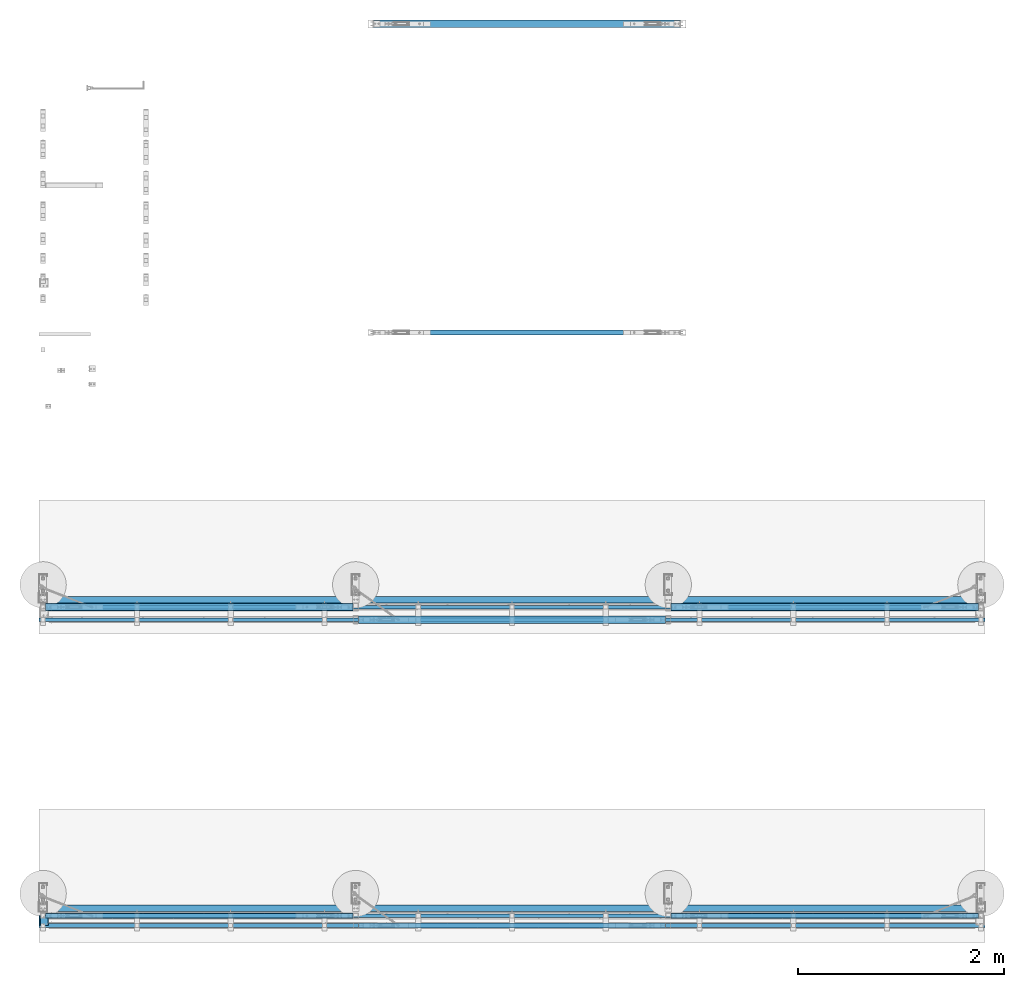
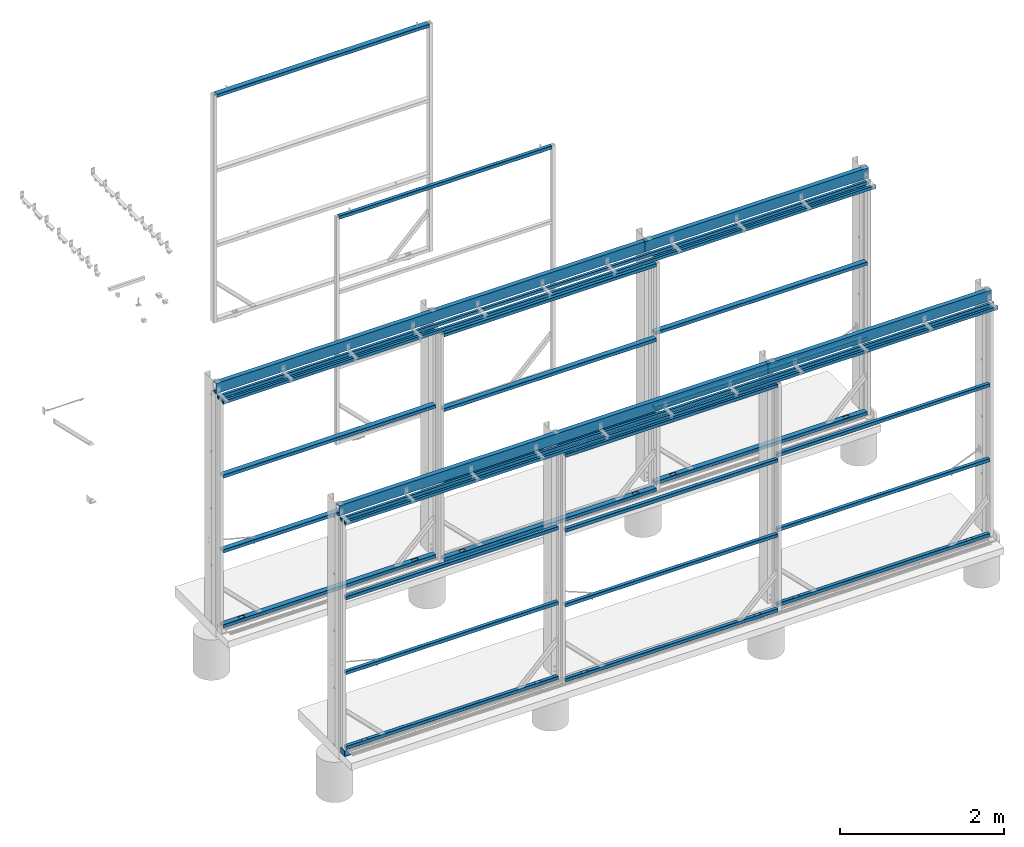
# One storey, part 7 of 91: 35 beams, 35 elements without a shape of their own.
"""IFC2X3 building model written with IfcOpenShell, lengths in millimetres."""

from ifc_helpers import new_model, si_unit, frame, origin_with_axes, origin_2d_with_axis, place, context, subcontext, project, spatial, polyline, hollow_rectangle, l_section, c_section, outline, extrude, boolean, material, type_object, element, aggregate, save


model = new_model("IFC2X3")

# Units and contexts
model_context = context("Model", 3, precision=1e-05, world=origin_with_axes())
body_context = subcontext(model_context, "Body", "Model", "MODEL_VIEW")
ifc_project = project(units=[si_unit("LENGTHUNIT", "METRE", prefix="MILLI"), si_unit("AREAUNIT", "SQUARE_METRE"), si_unit("VOLUMEUNIT", "CUBIC_METRE"), si_unit("MASSUNIT", "GRAM", prefix="KILO"), si_unit("TIMEUNIT", "SECOND"), si_unit("PLANEANGLEUNIT", "RADIAN"), si_unit("SOLIDANGLEUNIT", "STERADIAN"), si_unit("THERMODYNAMICTEMPERATUREUNIT", "DEGREE_CELSIUS"), si_unit("LUMINOUSINTENSITYUNIT", "LUMEN")], contexts=[model_context])

# Site, building, storey
site_placement = place(None, origin_with_axes())
site = spatial("IfcSite", under=ifc_project, at=site_placement, Name="Undefined", CompositionType="ELEMENT")
building_placement = place(site_placement, origin_with_axes())
building = spatial("IfcBuilding", under=site, at=building_placement, Name="Undefined", CompositionType="ELEMENT")
storey_placement = place(building_placement, origin_with_axes())
storey = spatial("IfcBuildingStorey", under=building, at=storey_placement, Name="Undefined", CompositionType="ELEMENT", Elevation=0.0)

# Assembly, beam
assembly_1_placement = place(storey_placement, origin_with_axes())
assembly_1 = element("IfcElementAssembly", 1, at=assembly_1_placement, inside=storey, Name="DOOR STOPPER", AssemblyPlace="NOTDEFINED", PredefinedType="RIGID_FRAME")
ifc_material_1 = material(Name="STEEL/300PLUS")
beam_type_1 = type_object("IfcBeamType", Name="EA90*90*8", PredefinedType="NOTDEFINED")
beam_1_placement = place(assembly_1_placement, frame((-116788.84, 84617.6509765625, -12.0), z_axis=(0.0, 0.0, 1.0), x_axis=(0.0, 1.0, 0.0)))
beam_1 = element("IfcBeam", 2, at=beam_1_placement, type_object=beam_type_1, material=ifc_material_1, Name="DOOR STOPPER", ObjectType="EA90*90*8", context=body_context, shape_type="SweptSolid", body=[
    extrude(l_section(Depth=90.0, Width=90.0, Thickness=7.800000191, FilletRadius=8.0, EdgeRadius=5.0, at=origin_2d_with_axis()), frame((95.0, 0.0, 0.0), z_axis=(-1.0, 0.0, 0.0), x_axis=(0.0, -1.0, 0.0)), (0.0, 0.0, 1.0), 95.0),
])
aggregate(assembly_1, [beam_1])

assembly_2_placement = place(storey_placement, origin_with_axes())
assembly_2 = element("IfcElementAssembly", 3, at=assembly_2_placement, inside=storey, Name="Sliding Door Beam", AssemblyPlace="NOTDEFINED", PredefinedType="RIGID_FRAME")
beam_type_2 = type_object("IfcBeamType", Name="RHS:75x50x2.0", PredefinedType="NOTDEFINED")
beam_2_placement = place(assembly_2_placement, frame((-110601.29, 93380.0, 3351.0), z_axis=(0.0, -1.0, 0.0), x_axis=(-1.0, 0.0, 0.0)))
beam_2 = element("IfcBeam", 4, at=beam_2_placement, type_object=beam_type_2, material=ifc_material_1, Name="Sliding Door Beam", ObjectType="RHS:75x50x2.0", context=body_context, shape_type="SweptSolid", body=[
    extrude(hollow_rectangle(XDim=50.0, YDim=75.0, WallThickness=2.0, InnerFilletRadius=2.0, OuterFilletRadius=4.0, at=origin_2d_with_axis()), frame((2987.5, 0.0, 0.0), z_axis=(-1.0, 0.0, 0.0), x_axis=(0.0, -1.0, 0.0)), (0.0, 0.0, 1.0), 2987.5),
])
aggregate(assembly_2, [beam_2])

assembly_3_placement = place(storey_placement, origin_with_axes())
assembly_3 = element("IfcElementAssembly", 5, at=assembly_3_placement, inside=storey, Name="SLIDING DOOR", AssemblyPlace="NOTDEFINED", PredefinedType="RIGID_FRAME")
ifc_material_2 = material(Name="STEEL/300")
beam_3_placement = place(assembly_3_placement, frame((-107708.34, 87712.15, 2236.66333333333), z_axis=(0.0, -1.0, 0.0), x_axis=(-1.0, 0.0, 0.0)))
beam_3 = element("IfcBeam", 6, at=beam_3_placement, type_object=beam_type_2, material=ifc_material_2, Name="SLIDING DOOR", ObjectType="RHS:75x50x2.0", context=body_context, shape_type="SweptSolid", body=[
    extrude(hollow_rectangle(XDim=50.0, YDim=75.0, WallThickness=2.0, InnerFilletRadius=2.0, OuterFilletRadius=4.0, at=origin_2d_with_axis()), frame((2987.5, 0.0, 0.0), z_axis=(-1.0, 0.0, 0.0), x_axis=(0.0, -1.0, 0.0)), (0.0, 0.0, 1.0), 2987.5),
])
aggregate(assembly_3, [beam_3])

assembly_4_placement = place(storey_placement, origin_with_axes())
assembly_4 = element("IfcElementAssembly", 7, at=assembly_4_placement, inside=storey, Name="SLIDING DOOR", AssemblyPlace="NOTDEFINED", PredefinedType="RIGID_FRAME")
beam_4_placement = place(assembly_4_placement, frame((-107708.34, 87712.15, 1122.33666666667), z_axis=(0.0, -1.0, 0.0), x_axis=(-1.0, 0.0, 0.0)))
beam_4 = element("IfcBeam", 8, at=beam_4_placement, type_object=beam_type_2, material=ifc_material_2, Name="SLIDING DOOR", ObjectType="RHS:75x50x2.0", context=body_context, shape_type="SweptSolid", body=[
    extrude(hollow_rectangle(XDim=50.0, YDim=75.0, WallThickness=2.0, InnerFilletRadius=2.0, OuterFilletRadius=4.0, at=origin_2d_with_axis()), frame((2987.5, 0.0, 0.0), z_axis=(-1.0, 0.0, 0.0), x_axis=(0.0, -1.0, 0.0)), (0.0, 0.0, 1.0), 2987.5),
])
aggregate(assembly_4, [beam_4])

assembly_5_placement = place(storey_placement, origin_with_axes())
assembly_5 = element("IfcElementAssembly", 9, at=assembly_5_placement, inside=storey, Name="SLIDING DOOR", AssemblyPlace="NOTDEFINED", PredefinedType="RIGID_FRAME")
beam_5_placement = place(assembly_5_placement, frame((-107708.34, 87712.15, 8.0), z_axis=(0.0, -1.0, 0.0), x_axis=(-1.0, 0.0, 0.0)))
beam_5 = element("IfcBeam", 10, at=beam_5_placement, type_object=beam_type_2, material=ifc_material_2, Name="SLIDING DOOR", ObjectType="RHS:75x50x2.0", context=body_context, shape_type="CSG", body=[
    boolean("DIFFERENCE", boolean("DIFFERENCE", boolean("DIFFERENCE", boolean("DIFFERENCE", extrude(hollow_rectangle(XDim=50.0, YDim=75.0, WallThickness=2.0, InnerFilletRadius=2.0, OuterFilletRadius=4.0, at=origin_2d_with_axis()), frame((2987.5, 0.0, 0.0), z_axis=(-1.0, 0.0, 0.0), x_axis=(0.0, -1.0, 0.0)), (0.0, 0.0, 1.0), 2987.5), extrude(outline(polyline([(0.0, 0.0), (38.0, 0.0), (38.0, 100.0), (0.0, 100.0), (0.0, 0.0)])), frame((224.99875659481, 35.5, 19.0), z_axis=(0.0, -1.0, 0.0), x_axis=(0.0, 0.0, -1.0)), (0.0, 0.0, 1.0), 25.0)), extrude(outline(polyline([(0.0, 0.0), (38.0, 0.0), (38.0, 80.0), (0.0, 80.0), (0.0, 0.0)])), frame((234.99875659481, -12.5, 19.0), z_axis=(0.0, -1.0, 0.0), x_axis=(0.0, 0.0, -1.0)), (0.0, 0.0, 1.0), 25.0)), extrude(outline(polyline([(0.0, 0.0), (38.0, 0.0), (38.0, 100.0), (0.0, 100.0), (0.0, 0.0)])), frame((2662.49875659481, 35.5, 19.0), z_axis=(0.0, -1.0, 0.0), x_axis=(0.0, 0.0, -1.0)), (0.0, 0.0, 1.0), 25.0)), extrude(outline(polyline([(0.0, 0.0), (38.0, 0.0), (38.0, 80.0), (0.0, 80.0), (0.0, 0.0)])), frame((2672.49875659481, -12.5, 19.0), z_axis=(0.0, -1.0, 0.0), x_axis=(0.0, 0.0, -1.0)), (0.0, 0.0, 1.0), 25.0)),
])
aggregate(assembly_5, [beam_5])

assembly_6_placement = place(storey_placement, origin_with_axes())
assembly_6 = element("IfcElementAssembly", 11, at=assembly_6_placement, inside=storey, Name="SLIDING DOOR", AssemblyPlace="NOTDEFINED", PredefinedType="RIGID_FRAME")
beam_6_placement = place(assembly_6_placement, frame((-107708.34, 87712.15, 3351.0), z_axis=(0.0, -1.0, 0.0), x_axis=(-1.0, 0.0, 0.0)))
beam_6 = element("IfcBeam", 12, at=beam_6_placement, type_object=beam_type_2, material=ifc_material_2, Name="SLIDING DOOR", ObjectType="RHS:75x50x2.0", context=body_context, shape_type="SweptSolid", body=[
    extrude(hollow_rectangle(XDim=50.0, YDim=75.0, WallThickness=2.0, InnerFilletRadius=2.0, OuterFilletRadius=4.0, at=origin_2d_with_axis()), frame((2987.5, 0.0, 0.0), z_axis=(-1.0, 0.0, 0.0), x_axis=(0.0, -1.0, 0.0)), (0.0, 0.0, 1.0), 2987.5),
])
aggregate(assembly_6, [beam_6])

assembly_7_placement = place(storey_placement, origin_with_axes())
assembly_7 = element("IfcElementAssembly", 13, at=assembly_7_placement, inside=storey, Name="SLIDING DOOR", AssemblyPlace="NOTDEFINED", PredefinedType="RIGID_FRAME")
beam_7_placement = place(assembly_7_placement, frame((-110745.84, 87590.15, 2236.66333333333), z_axis=(0.0, -1.0, 0.0), x_axis=(-1.0, 0.0, 0.0)))
beam_7 = element("IfcBeam", 14, at=beam_7_placement, type_object=beam_type_2, material=ifc_material_2, Name="SLIDING DOOR", ObjectType="RHS:75x50x2.0", context=body_context, shape_type="SweptSolid", body=[
    extrude(hollow_rectangle(XDim=50.0, YDim=75.0, WallThickness=2.0, InnerFilletRadius=2.0, OuterFilletRadius=4.0, at=origin_2d_with_axis()), frame((2987.5, 0.0, 0.0), z_axis=(-1.0, 0.0, 0.0), x_axis=(0.0, -1.0, 0.0)), (0.0, 0.0, 1.0), 2987.5),
])
aggregate(assembly_7, [beam_7])

assembly_8_placement = place(storey_placement, origin_with_axes())
assembly_8 = element("IfcElementAssembly", 15, at=assembly_8_placement, inside=storey, Name="SLIDING DOOR", AssemblyPlace="NOTDEFINED", PredefinedType="RIGID_FRAME")
beam_8_placement = place(assembly_8_placement, frame((-110745.84, 87590.15, 1122.33666666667), z_axis=(0.0, -1.0, 0.0), x_axis=(-1.0, 0.0, 0.0)))
beam_8 = element("IfcBeam", 16, at=beam_8_placement, type_object=beam_type_2, material=ifc_material_2, Name="SLIDING DOOR", ObjectType="RHS:75x50x2.0", context=body_context, shape_type="SweptSolid", body=[
    extrude(hollow_rectangle(XDim=50.0, YDim=75.0, WallThickness=2.0, InnerFilletRadius=2.0, OuterFilletRadius=4.0, at=origin_2d_with_axis()), frame((2987.5, 0.0, 0.0), z_axis=(-1.0, 0.0, 0.0), x_axis=(0.0, -1.0, 0.0)), (0.0, 0.0, 1.0), 2987.5),
])
aggregate(assembly_8, [beam_8])

assembly_9_placement = place(storey_placement, origin_with_axes())
assembly_9 = element("IfcElementAssembly", 17, at=assembly_9_placement, inside=storey, Name="SLIDING DOOR", AssemblyPlace="NOTDEFINED", PredefinedType="RIGID_FRAME")
beam_9_placement = place(assembly_9_placement, frame((-110745.84, 87590.15, 8.0), z_axis=(0.0, -1.0, 0.0), x_axis=(-1.0, 0.0, 0.0)))
beam_9 = element("IfcBeam", 18, at=beam_9_placement, type_object=beam_type_2, material=ifc_material_2, Name="SLIDING DOOR", ObjectType="RHS:75x50x2.0", context=body_context, shape_type="CSG", body=[
    boolean("DIFFERENCE", boolean("DIFFERENCE", boolean("DIFFERENCE", boolean("DIFFERENCE", extrude(hollow_rectangle(XDim=50.0, YDim=75.0, WallThickness=2.0, InnerFilletRadius=2.0, OuterFilletRadius=4.0, at=origin_2d_with_axis()), frame((2987.5, 0.0, 0.0), z_axis=(-1.0, 0.0, 0.0), x_axis=(0.0, -1.0, 0.0)), (0.0, 0.0, 1.0), 2987.5), extrude(outline(polyline([(0.0, 0.0), (38.0, 0.0), (38.0, 100.0), (0.0, 100.0), (0.0, 0.0)])), frame((224.99875659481, 35.5, 19.0), z_axis=(0.0, -1.0, 0.0), x_axis=(0.0, 0.0, -1.0)), (0.0, 0.0, 1.0), 25.0)), extrude(outline(polyline([(0.0, 0.0), (38.0, 0.0), (38.0, 80.0), (0.0, 80.0), (0.0, 0.0)])), frame((234.99875659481, -12.5, 19.0), z_axis=(0.0, -1.0, 0.0), x_axis=(0.0, 0.0, -1.0)), (0.0, 0.0, 1.0), 25.0)), extrude(outline(polyline([(0.0, 0.0), (38.0, 0.0), (38.0, 100.0), (0.0, 100.0), (0.0, 0.0)])), frame((2662.49875659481, 35.5, 19.0), z_axis=(0.0, -1.0, 0.0), x_axis=(0.0, 0.0, -1.0)), (0.0, 0.0, 1.0), 25.0)), extrude(outline(polyline([(0.0, 0.0), (38.0, 0.0), (38.0, 80.0), (0.0, 80.0), (0.0, 0.0)])), frame((2672.49875659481, -12.5, 19.0), z_axis=(0.0, -1.0, 0.0), x_axis=(0.0, 0.0, -1.0)), (0.0, 0.0, 1.0), 25.0)),
])
aggregate(assembly_9, [beam_9])

assembly_10_placement = place(storey_placement, origin_with_axes())
assembly_10 = element("IfcElementAssembly", 19, at=assembly_10_placement, inside=storey, Name="SLIDING DOOR", AssemblyPlace="NOTDEFINED", PredefinedType="RIGID_FRAME")
beam_10_placement = place(assembly_10_placement, frame((-110745.84, 87590.15, 3351.0), z_axis=(0.0, -1.0, 0.0), x_axis=(-1.0, 0.0, 0.0)))
beam_10 = element("IfcBeam", 20, at=beam_10_placement, type_object=beam_type_2, material=ifc_material_2, Name="SLIDING DOOR", ObjectType="RHS:75x50x2.0", context=body_context, shape_type="SweptSolid", body=[
    extrude(hollow_rectangle(XDim=50.0, YDim=75.0, WallThickness=2.0, InnerFilletRadius=2.0, OuterFilletRadius=4.0, at=origin_2d_with_axis()), frame((2987.5, 0.0, 0.0), z_axis=(-1.0, 0.0, 0.0), x_axis=(0.0, -1.0, 0.0)), (0.0, 0.0, 1.0), 2987.5),
])
aggregate(assembly_10, [beam_10])

assembly_11_placement = place(storey_placement, origin_with_axes())
assembly_11 = element("IfcElementAssembly", 21, at=assembly_11_placement, inside=storey, Name="SLIDING DOOR", AssemblyPlace="NOTDEFINED", PredefinedType="RIGID_FRAME")
beam_11_placement = place(assembly_11_placement, frame((-113783.34, 87712.15, 2236.66333333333), z_axis=(0.0, -1.0, 0.0), x_axis=(-1.0, 0.0, 0.0)))
beam_11 = element("IfcBeam", 22, at=beam_11_placement, type_object=beam_type_2, material=ifc_material_2, Name="SLIDING DOOR", ObjectType="RHS:75x50x2.0", context=body_context, shape_type="SweptSolid", body=[
    extrude(hollow_rectangle(XDim=50.0, YDim=75.0, WallThickness=2.0, InnerFilletRadius=2.0, OuterFilletRadius=4.0, at=origin_2d_with_axis()), frame((2987.5, 0.0, 0.0), z_axis=(-1.0, 0.0, 0.0), x_axis=(0.0, -1.0, 0.0)), (0.0, 0.0, 1.0), 2987.5),
])
aggregate(assembly_11, [beam_11])

assembly_12_placement = place(storey_placement, origin_with_axes())
assembly_12 = element("IfcElementAssembly", 23, at=assembly_12_placement, inside=storey, Name="SLIDING DOOR", AssemblyPlace="NOTDEFINED", PredefinedType="RIGID_FRAME")
beam_12_placement = place(assembly_12_placement, frame((-113783.34, 87712.15, 1122.33666666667), z_axis=(0.0, -1.0, 0.0), x_axis=(-1.0, 0.0, 0.0)))
beam_12 = element("IfcBeam", 24, at=beam_12_placement, type_object=beam_type_2, material=ifc_material_2, Name="SLIDING DOOR", ObjectType="RHS:75x50x2.0", context=body_context, shape_type="SweptSolid", body=[
    extrude(hollow_rectangle(XDim=50.0, YDim=75.0, WallThickness=2.0, InnerFilletRadius=2.0, OuterFilletRadius=4.0, at=origin_2d_with_axis()), frame((2987.5, 0.0, 0.0), z_axis=(-1.0, 0.0, 0.0), x_axis=(0.0, -1.0, 0.0)), (0.0, 0.0, 1.0), 2987.5),
])
aggregate(assembly_12, [beam_12])

assembly_13_placement = place(storey_placement, origin_with_axes())
assembly_13 = element("IfcElementAssembly", 25, at=assembly_13_placement, inside=storey, Name="SLIDING DOOR", AssemblyPlace="NOTDEFINED", PredefinedType="RIGID_FRAME")
beam_13_placement = place(assembly_13_placement, frame((-113783.34, 87712.15, 8.0), z_axis=(0.0, -1.0, 0.0), x_axis=(-1.0, 0.0, 0.0)))
beam_13 = element("IfcBeam", 26, at=beam_13_placement, type_object=beam_type_2, material=ifc_material_2, Name="SLIDING DOOR", ObjectType="RHS:75x50x2.0", context=body_context, shape_type="CSG", body=[
    boolean("DIFFERENCE", boolean("DIFFERENCE", boolean("DIFFERENCE", boolean("DIFFERENCE", extrude(hollow_rectangle(XDim=50.0, YDim=75.0, WallThickness=2.0, InnerFilletRadius=2.0, OuterFilletRadius=4.0, at=origin_2d_with_axis()), frame((2987.5, 0.0, 0.0), z_axis=(-1.0, 0.0, 0.0), x_axis=(0.0, -1.0, 0.0)), (0.0, 0.0, 1.0), 2987.5), extrude(outline(polyline([(0.0, 0.0), (38.0, 0.0), (38.0, 100.0), (0.0, 100.0), (0.0, 0.0)])), frame((224.99875659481, 35.5, 19.0), z_axis=(0.0, -1.0, 0.0), x_axis=(0.0, 0.0, -1.0)), (0.0, 0.0, 1.0), 25.0)), extrude(outline(polyline([(0.0, 0.0), (38.0, 0.0), (38.0, 80.0), (0.0, 80.0), (0.0, 0.0)])), frame((234.99875659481, -12.5, 19.0), z_axis=(0.0, -1.0, 0.0), x_axis=(0.0, 0.0, -1.0)), (0.0, 0.0, 1.0), 25.0)), extrude(outline(polyline([(0.0, 0.0), (38.0, 0.0), (38.0, 100.0), (0.0, 100.0), (0.0, 0.0)])), frame((2662.49875659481, 35.5, 19.0), z_axis=(0.0, -1.0, 0.0), x_axis=(0.0, 0.0, -1.0)), (0.0, 0.0, 1.0), 25.0)), extrude(outline(polyline([(0.0, 0.0), (38.0, 0.0), (38.0, 80.0), (0.0, 80.0), (0.0, 0.0)])), frame((2672.49875659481, -12.5, 19.0), z_axis=(0.0, -1.0, 0.0), x_axis=(0.0, 0.0, -1.0)), (0.0, 0.0, 1.0), 25.0)),
])
aggregate(assembly_13, [beam_13])

assembly_14_placement = place(storey_placement, origin_with_axes())
assembly_14 = element("IfcElementAssembly", 27, at=assembly_14_placement, inside=storey, Name="SLIDING DOOR", AssemblyPlace="NOTDEFINED", PredefinedType="RIGID_FRAME")
beam_14_placement = place(assembly_14_placement, frame((-113783.34, 87712.15, 3351.0), z_axis=(0.0, -1.0, 0.0), x_axis=(-1.0, 0.0, 0.0)))
beam_14 = element("IfcBeam", 28, at=beam_14_placement, type_object=beam_type_2, material=ifc_material_2, Name="SLIDING DOOR", ObjectType="RHS:75x50x2.0", context=body_context, shape_type="SweptSolid", body=[
    extrude(hollow_rectangle(XDim=50.0, YDim=75.0, WallThickness=2.0, InnerFilletRadius=2.0, OuterFilletRadius=4.0, at=origin_2d_with_axis()), frame((2987.5, 0.0, 0.0), z_axis=(-1.0, 0.0, 0.0), x_axis=(0.0, -1.0, 0.0)), (0.0, 0.0, 1.0), 2987.5),
])
aggregate(assembly_14, [beam_14])

assembly_15_placement = place(storey_placement, origin_with_axes())
assembly_15 = element("IfcElementAssembly", 29, at=assembly_15_placement, inside=storey, Name="Sliding Door Beam", AssemblyPlace="NOTDEFINED", PredefinedType="RIGID_FRAME")
beam_type_3 = type_object("IfcBeamType", Name="SHS:50x50x2.0", PredefinedType="NOTDEFINED")
beam_15_placement = place(assembly_15_placement, frame((-110601.29, 90380.0, 3351.0), z_axis=(0.0, -1.0, 0.0), x_axis=(-1.0, 0.0, 0.0)))
beam_15 = element("IfcBeam", 30, at=beam_15_placement, type_object=beam_type_3, material=ifc_material_1, Name="Sliding Door Beam", ObjectType="SHS:50x50x2.0", context=body_context, shape_type="SweptSolid", body=[
    extrude(hollow_rectangle(XDim=50.0, YDim=50.0, WallThickness=2.0, InnerFilletRadius=2.0, OuterFilletRadius=4.0, at=origin_2d_with_axis()), frame((2987.5, 0.0, 0.0), z_axis=(-1.0, 0.0, 0.0), x_axis=(0.0, -1.0, 0.0)), (0.0, 0.0, 1.0), 2987.5),
])
aggregate(assembly_15, [beam_15])

assembly_16_placement = place(storey_placement, origin_with_axes())
assembly_16 = element("IfcElementAssembly", 31, at=assembly_16_placement, inside=storey, Name="SLIDING DOOR", AssemblyPlace="NOTDEFINED", PredefinedType="RIGID_FRAME")
beam_16_placement = place(assembly_16_placement, frame((-107708.34, 84712.15, 2236.66333333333), z_axis=(0.0, -1.0, 0.0), x_axis=(-1.0, 0.0, 0.0)))
beam_16 = element("IfcBeam", 32, at=beam_16_placement, type_object=beam_type_3, material=ifc_material_2, Name="SLIDING DOOR", ObjectType="SHS:50x50x2.0", context=body_context, shape_type="SweptSolid", body=[
    extrude(hollow_rectangle(XDim=50.0, YDim=50.0, WallThickness=2.0, InnerFilletRadius=2.0, OuterFilletRadius=4.0, at=origin_2d_with_axis()), frame((2987.5, 0.0, 0.0), z_axis=(-1.0, 0.0, 0.0), x_axis=(0.0, -1.0, 0.0)), (0.0, 0.0, 1.0), 2987.5),
])
aggregate(assembly_16, [beam_16])

assembly_17_placement = place(storey_placement, origin_with_axes())
assembly_17 = element("IfcElementAssembly", 33, at=assembly_17_placement, inside=storey, Name="SLIDING DOOR", AssemblyPlace="NOTDEFINED", PredefinedType="RIGID_FRAME")
beam_17_placement = place(assembly_17_placement, frame((-107708.34, 84712.15, 1122.33666666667), z_axis=(0.0, -1.0, 0.0), x_axis=(-1.0, 0.0, 0.0)))
beam_17 = element("IfcBeam", 34, at=beam_17_placement, type_object=beam_type_3, material=ifc_material_2, Name="SLIDING DOOR", ObjectType="SHS:50x50x2.0", context=body_context, shape_type="SweptSolid", body=[
    extrude(hollow_rectangle(XDim=50.0, YDim=50.0, WallThickness=2.0, InnerFilletRadius=2.0, OuterFilletRadius=4.0, at=origin_2d_with_axis()), frame((2987.5, 0.0, 0.0), z_axis=(-1.0, 0.0, 0.0), x_axis=(0.0, -1.0, 0.0)), (0.0, 0.0, 1.0), 2987.5),
])
aggregate(assembly_17, [beam_17])

assembly_18_placement = place(storey_placement, origin_with_axes())
assembly_18 = element("IfcElementAssembly", 35, at=assembly_18_placement, inside=storey, Name="SLIDING DOOR", AssemblyPlace="NOTDEFINED", PredefinedType="RIGID_FRAME")
beam_18_placement = place(assembly_18_placement, frame((-107708.34, 84712.15, 8.0), z_axis=(0.0, -1.0, 0.0), x_axis=(-1.0, 0.0, 0.0)))
beam_18 = element("IfcBeam", 36, at=beam_18_placement, type_object=beam_type_3, material=ifc_material_2, Name="SLIDING DOOR", ObjectType="SHS:50x50x2.0", context=body_context, shape_type="CSG", body=[
    boolean("DIFFERENCE", boolean("DIFFERENCE", boolean("DIFFERENCE", boolean("DIFFERENCE", extrude(hollow_rectangle(XDim=50.0, YDim=50.0, WallThickness=2.0, InnerFilletRadius=2.0, OuterFilletRadius=4.0, at=origin_2d_with_axis()), frame((2987.5, 0.0, 0.0), z_axis=(-1.0, 0.0, 0.0), x_axis=(0.0, -1.0, 0.0)), (0.0, 0.0, 1.0), 2987.5), extrude(outline(polyline([(0.0, 0.0), (38.0, 0.0), (38.0, 100.0), (0.0, 100.0), (0.0, 0.0)])), frame((224.99875659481, 35.5, 19.0), z_axis=(0.0, -1.0, 0.0), x_axis=(0.0, 0.0, -1.0)), (0.0, 0.0, 1.0), 25.0)), extrude(outline(polyline([(0.0, 0.0), (38.0, 0.0), (38.0, 80.0), (0.0, 80.0), (0.0, 0.0)])), frame((234.99875659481, -12.5, 19.0), z_axis=(0.0, -1.0, 0.0), x_axis=(0.0, 0.0, -1.0)), (0.0, 0.0, 1.0), 25.0)), extrude(outline(polyline([(0.0, 0.0), (38.0, 0.0), (38.0, 100.0), (0.0, 100.0), (0.0, 0.0)])), frame((2662.49875659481, 35.5, 19.0), z_axis=(0.0, -1.0, 0.0), x_axis=(0.0, 0.0, -1.0)), (0.0, 0.0, 1.0), 25.0)), extrude(outline(polyline([(0.0, 0.0), (38.0, 0.0), (38.0, 80.0), (0.0, 80.0), (0.0, 0.0)])), frame((2672.49875659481, -12.5, 19.0), z_axis=(0.0, -1.0, 0.0), x_axis=(0.0, 0.0, -1.0)), (0.0, 0.0, 1.0), 25.0)),
])
aggregate(assembly_18, [beam_18])

assembly_19_placement = place(storey_placement, origin_with_axes())
assembly_19 = element("IfcElementAssembly", 37, at=assembly_19_placement, inside=storey, Name="SLIDING DOOR", AssemblyPlace="NOTDEFINED", PredefinedType="RIGID_FRAME")
beam_19_placement = place(assembly_19_placement, frame((-107708.34, 84712.15, 3351.0), z_axis=(0.0, -1.0, 0.0), x_axis=(-1.0, 0.0, 0.0)))
beam_19 = element("IfcBeam", 38, at=beam_19_placement, type_object=beam_type_3, material=ifc_material_2, Name="SLIDING DOOR", ObjectType="SHS:50x50x2.0", context=body_context, shape_type="SweptSolid", body=[
    extrude(hollow_rectangle(XDim=50.0, YDim=50.0, WallThickness=2.0, InnerFilletRadius=2.0, OuterFilletRadius=4.0, at=origin_2d_with_axis()), frame((2987.5, 0.0, 0.0), z_axis=(-1.0, 0.0, 0.0), x_axis=(0.0, -1.0, 0.0)), (0.0, 0.0, 1.0), 2987.5),
])
aggregate(assembly_19, [beam_19])

assembly_20_placement = place(storey_placement, origin_with_axes())
assembly_20 = element("IfcElementAssembly", 39, at=assembly_20_placement, inside=storey, Name="SLIDING DOOR", AssemblyPlace="NOTDEFINED", PredefinedType="RIGID_FRAME")
beam_20_placement = place(assembly_20_placement, frame((-110745.84, 84618.15, 2236.66333333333), z_axis=(0.0, -1.0, 0.0), x_axis=(-1.0, 0.0, 0.0)))
beam_20 = element("IfcBeam", 40, at=beam_20_placement, type_object=beam_type_3, material=ifc_material_2, Name="SLIDING DOOR", ObjectType="SHS:50x50x2.0", context=body_context, shape_type="SweptSolid", body=[
    extrude(hollow_rectangle(XDim=50.0, YDim=50.0, WallThickness=2.0, InnerFilletRadius=2.0, OuterFilletRadius=4.0, at=origin_2d_with_axis()), frame((2987.5, 0.0, 0.0), z_axis=(-1.0, 0.0, 0.0), x_axis=(0.0, -1.0, 0.0)), (0.0, 0.0, 1.0), 2987.5),
])
aggregate(assembly_20, [beam_20])

assembly_21_placement = place(storey_placement, origin_with_axes())
assembly_21 = element("IfcElementAssembly", 41, at=assembly_21_placement, inside=storey, Name="SLIDING DOOR", AssemblyPlace="NOTDEFINED", PredefinedType="RIGID_FRAME")
beam_21_placement = place(assembly_21_placement, frame((-110745.84, 84618.15, 1122.33666666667), z_axis=(0.0, -1.0, 0.0), x_axis=(-1.0, 0.0, 0.0)))
beam_21 = element("IfcBeam", 42, at=beam_21_placement, type_object=beam_type_3, material=ifc_material_2, Name="SLIDING DOOR", ObjectType="SHS:50x50x2.0", context=body_context, shape_type="SweptSolid", body=[
    extrude(hollow_rectangle(XDim=50.0, YDim=50.0, WallThickness=2.0, InnerFilletRadius=2.0, OuterFilletRadius=4.0, at=origin_2d_with_axis()), frame((2987.5, 0.0, 0.0), z_axis=(-1.0, 0.0, 0.0), x_axis=(0.0, -1.0, 0.0)), (0.0, 0.0, 1.0), 2987.5),
])
aggregate(assembly_21, [beam_21])

assembly_22_placement = place(storey_placement, origin_with_axes())
assembly_22 = element("IfcElementAssembly", 43, at=assembly_22_placement, inside=storey, Name="SLIDING DOOR", AssemblyPlace="NOTDEFINED", PredefinedType="RIGID_FRAME")
beam_22_placement = place(assembly_22_placement, frame((-110745.84, 84618.15, 8.0), z_axis=(0.0, -1.0, 0.0), x_axis=(-1.0, 0.0, 0.0)))
beam_22 = element("IfcBeam", 44, at=beam_22_placement, type_object=beam_type_3, material=ifc_material_2, Name="SLIDING DOOR", ObjectType="SHS:50x50x2.0", context=body_context, shape_type="CSG", body=[
    boolean("DIFFERENCE", boolean("DIFFERENCE", boolean("DIFFERENCE", boolean("DIFFERENCE", extrude(hollow_rectangle(XDim=50.0, YDim=50.0, WallThickness=2.0, InnerFilletRadius=2.0, OuterFilletRadius=4.0, at=origin_2d_with_axis()), frame((2987.5, 0.0, 0.0), z_axis=(-1.0, 0.0, 0.0), x_axis=(0.0, -1.0, 0.0)), (0.0, 0.0, 1.0), 2987.5), extrude(outline(polyline([(0.0, 0.0), (38.0, 0.0), (38.0, 100.0), (0.0, 100.0), (0.0, 0.0)])), frame((224.99875659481, 35.5, 19.0), z_axis=(0.0, -1.0, 0.0), x_axis=(0.0, 0.0, -1.0)), (0.0, 0.0, 1.0), 25.0)), extrude(outline(polyline([(0.0, 0.0), (38.0, 0.0), (38.0, 80.0), (0.0, 80.0), (0.0, 0.0)])), frame((234.99875659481, -12.5, 19.0), z_axis=(0.0, -1.0, 0.0), x_axis=(0.0, 0.0, -1.0)), (0.0, 0.0, 1.0), 25.0)), extrude(outline(polyline([(0.0, 0.0), (38.0, 0.0), (38.0, 100.0), (0.0, 100.0), (0.0, 0.0)])), frame((2662.49875659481, 35.5, 19.0), z_axis=(0.0, -1.0, 0.0), x_axis=(0.0, 0.0, -1.0)), (0.0, 0.0, 1.0), 25.0)), extrude(outline(polyline([(0.0, 0.0), (38.0, 0.0), (38.0, 80.0), (0.0, 80.0), (0.0, 0.0)])), frame((2672.49875659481, -12.5, 19.0), z_axis=(0.0, -1.0, 0.0), x_axis=(0.0, 0.0, -1.0)), (0.0, 0.0, 1.0), 25.0)),
])
aggregate(assembly_22, [beam_22])

assembly_23_placement = place(storey_placement, origin_with_axes())
assembly_23 = element("IfcElementAssembly", 45, at=assembly_23_placement, inside=storey, Name="SLIDING DOOR", AssemblyPlace="NOTDEFINED", PredefinedType="RIGID_FRAME")
beam_23_placement = place(assembly_23_placement, frame((-110745.84, 84618.15, 3351.0), z_axis=(0.0, -1.0, 0.0), x_axis=(-1.0, 0.0, 0.0)))
beam_23 = element("IfcBeam", 46, at=beam_23_placement, type_object=beam_type_3, material=ifc_material_2, Name="SLIDING DOOR", ObjectType="SHS:50x50x2.0", context=body_context, shape_type="SweptSolid", body=[
    extrude(hollow_rectangle(XDim=50.0, YDim=50.0, WallThickness=2.0, InnerFilletRadius=2.0, OuterFilletRadius=4.0, at=origin_2d_with_axis()), frame((2987.5, 0.0, 0.0), z_axis=(-1.0, 0.0, 0.0), x_axis=(0.0, -1.0, 0.0)), (0.0, 0.0, 1.0), 2987.5),
])
aggregate(assembly_23, [beam_23])

assembly_24_placement = place(storey_placement, origin_with_axes())
assembly_24 = element("IfcElementAssembly", 47, at=assembly_24_placement, inside=storey, Name="SLIDING DOOR", AssemblyPlace="NOTDEFINED", PredefinedType="RIGID_FRAME")
beam_24_placement = place(assembly_24_placement, frame((-113783.34, 84712.15, 2236.66333333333), z_axis=(0.0, -1.0, 0.0), x_axis=(-1.0, 0.0, 0.0)))
beam_24 = element("IfcBeam", 48, at=beam_24_placement, type_object=beam_type_3, material=ifc_material_2, Name="SLIDING DOOR", ObjectType="SHS:50x50x2.0", context=body_context, shape_type="SweptSolid", body=[
    extrude(hollow_rectangle(XDim=50.0, YDim=50.0, WallThickness=2.0, InnerFilletRadius=2.0, OuterFilletRadius=4.0, at=origin_2d_with_axis()), frame((2987.5, 0.0, 0.0), z_axis=(-1.0, 0.0, 0.0), x_axis=(0.0, -1.0, 0.0)), (0.0, 0.0, 1.0), 2987.5),
])
aggregate(assembly_24, [beam_24])

assembly_25_placement = place(storey_placement, origin_with_axes())
assembly_25 = element("IfcElementAssembly", 49, at=assembly_25_placement, inside=storey, Name="SLIDING DOOR", AssemblyPlace="NOTDEFINED", PredefinedType="RIGID_FRAME")
beam_25_placement = place(assembly_25_placement, frame((-113783.34, 84712.15, 1122.33666666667), z_axis=(0.0, -1.0, 0.0), x_axis=(-1.0, 0.0, 0.0)))
beam_25 = element("IfcBeam", 50, at=beam_25_placement, type_object=beam_type_3, material=ifc_material_2, Name="SLIDING DOOR", ObjectType="SHS:50x50x2.0", context=body_context, shape_type="SweptSolid", body=[
    extrude(hollow_rectangle(XDim=50.0, YDim=50.0, WallThickness=2.0, InnerFilletRadius=2.0, OuterFilletRadius=4.0, at=origin_2d_with_axis()), frame((2987.5, 0.0, 0.0), z_axis=(-1.0, 0.0, 0.0), x_axis=(0.0, -1.0, 0.0)), (0.0, 0.0, 1.0), 2987.5),
])
aggregate(assembly_25, [beam_25])

assembly_26_placement = place(storey_placement, origin_with_axes())
assembly_26 = element("IfcElementAssembly", 51, at=assembly_26_placement, inside=storey, Name="SLIDING DOOR", AssemblyPlace="NOTDEFINED", PredefinedType="RIGID_FRAME")
beam_26_placement = place(assembly_26_placement, frame((-113783.34, 84712.15, 8.0), z_axis=(0.0, -1.0, 0.0), x_axis=(-1.0, 0.0, 0.0)))
beam_26 = element("IfcBeam", 52, at=beam_26_placement, type_object=beam_type_3, material=ifc_material_2, Name="SLIDING DOOR", ObjectType="SHS:50x50x2.0", context=body_context, shape_type="CSG", body=[
    boolean("DIFFERENCE", boolean("DIFFERENCE", boolean("DIFFERENCE", boolean("DIFFERENCE", extrude(hollow_rectangle(XDim=50.0, YDim=50.0, WallThickness=2.0, InnerFilletRadius=2.0, OuterFilletRadius=4.0, at=origin_2d_with_axis()), frame((2987.5, 0.0, 0.0), z_axis=(-1.0, 0.0, 0.0), x_axis=(0.0, -1.0, 0.0)), (0.0, 0.0, 1.0), 2987.5), extrude(outline(polyline([(0.0, 0.0), (38.0, 0.0), (38.0, 100.0), (0.0, 100.0), (0.0, 0.0)])), frame((224.99875659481, 35.5, 19.0), z_axis=(0.0, -1.0, 0.0), x_axis=(0.0, 0.0, -1.0)), (0.0, 0.0, 1.0), 25.0)), extrude(outline(polyline([(0.0, 0.0), (38.0, 0.0), (38.0, 80.0), (0.0, 80.0), (0.0, 0.0)])), frame((234.99875659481, -12.5, 19.0), z_axis=(0.0, -1.0, 0.0), x_axis=(0.0, 0.0, -1.0)), (0.0, 0.0, 1.0), 25.0)), extrude(outline(polyline([(0.0, 0.0), (38.0, 0.0), (38.0, 100.0), (0.0, 100.0), (0.0, 0.0)])), frame((2662.49875659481, 35.5, 19.0), z_axis=(0.0, -1.0, 0.0), x_axis=(0.0, 0.0, -1.0)), (0.0, 0.0, 1.0), 25.0)), extrude(outline(polyline([(0.0, 0.0), (38.0, 0.0), (38.0, 80.0), (0.0, 80.0), (0.0, 0.0)])), frame((2672.49875659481, -12.5, 19.0), z_axis=(0.0, -1.0, 0.0), x_axis=(0.0, 0.0, -1.0)), (0.0, 0.0, 1.0), 25.0)),
])
aggregate(assembly_26, [beam_26])

assembly_27_placement = place(storey_placement, origin_with_axes())
assembly_27 = element("IfcElementAssembly", 53, at=assembly_27_placement, inside=storey, Name="SLIDING DOOR", AssemblyPlace="NOTDEFINED", PredefinedType="RIGID_FRAME")
beam_27_placement = place(assembly_27_placement, frame((-113783.34, 84712.15, 3351.0), z_axis=(0.0, -1.0, 0.0), x_axis=(-1.0, 0.0, 0.0)))
beam_27 = element("IfcBeam", 54, at=beam_27_placement, type_object=beam_type_3, material=ifc_material_2, Name="SLIDING DOOR", ObjectType="SHS:50x50x2.0", context=body_context, shape_type="SweptSolid", body=[
    extrude(hollow_rectangle(XDim=50.0, YDim=50.0, WallThickness=2.0, InnerFilletRadius=2.0, OuterFilletRadius=4.0, at=origin_2d_with_axis()), frame((2987.5, 0.0, 0.0), z_axis=(-1.0, 0.0, 0.0), x_axis=(0.0, -1.0, 0.0)), (0.0, 0.0, 1.0), 2987.5),
])
aggregate(assembly_27, [beam_27])

assembly_28_placement = place(storey_placement, origin_with_axes())
assembly_28 = element("IfcElementAssembly", 55, at=assembly_28_placement, inside=storey, Name="TOP TRACK", AssemblyPlace="NOTDEFINED", PredefinedType="RIGID_FRAME")
ifc_material_3 = material(Name="STEEL/250")
beam_type_4 = type_object("IfcBeamType", Name="CC35-1.5-7-45", PredefinedType="NOTDEFINED")
beam_28_placement = place(assembly_28_placement, frame((-116833.84, 87590.15, 3420.0), z_axis=(0.0, -1.0, 0.0), x_axis=(1.0, 0.0, 0.0)))
beam_28 = element("IfcBeam", 56, at=beam_28_placement, type_object=beam_type_4, material=ifc_material_3, Name="TOP TRACK", ObjectType="CC35-1.5-7-45", context=body_context, shape_type="SweptSolid", body=[
    extrude(c_section(Depth=35.0, Width=45.0, WallThickness=1.5, Girth=7.0, at=origin_2d_with_axis()), frame((9188.5, 0.0, 0.0), z_axis=(-1.0, 0.0, 0.0), x_axis=(0.0, -1.0, 0.0)), (0.0, 0.0, 1.0), 9188.5),
])
aggregate(assembly_28, [beam_28])

assembly_29_placement = place(storey_placement, origin_with_axes())
assembly_29 = element("IfcElementAssembly", 57, at=assembly_29_placement, inside=storey, Name="TOP TRACK", AssemblyPlace="NOTDEFINED", PredefinedType="RIGID_FRAME")
beam_29_placement = place(assembly_29_placement, frame((-116833.84, 87712.15, 3420.0), z_axis=(0.0, -1.0, 0.0), x_axis=(1.0, 0.0, 0.0)))
beam_29 = element("IfcBeam", 58, at=beam_29_placement, type_object=beam_type_4, material=ifc_material_3, Name="TOP TRACK", ObjectType="CC35-1.5-7-45", context=body_context, shape_type="SweptSolid", body=[
    extrude(c_section(Depth=35.0, Width=45.0, WallThickness=1.5, Girth=7.0, at=origin_2d_with_axis()), frame((9188.5, 0.0, 0.0), z_axis=(-1.0, 0.0, 0.0), x_axis=(0.0, -1.0, 0.0)), (0.0, 0.0, 1.0), 9188.5),
])
aggregate(assembly_29, [beam_29])

assembly_30_placement = place(storey_placement, origin_with_axes())
assembly_30 = element("IfcElementAssembly", 59, at=assembly_30_placement, inside=storey, Name="TOP TRACK", AssemblyPlace="NOTDEFINED", PredefinedType="RIGID_FRAME")
beam_30_placement = place(assembly_30_placement, frame((-116833.84, 84618.15, 3420.0), z_axis=(0.0, -1.0, 0.0), x_axis=(1.0, 0.0, 0.0)))
beam_30 = element("IfcBeam", 60, at=beam_30_placement, type_object=beam_type_4, material=ifc_material_3, Name="TOP TRACK", ObjectType="CC35-1.5-7-45", context=body_context, shape_type="SweptSolid", body=[
    extrude(c_section(Depth=35.0, Width=45.0, WallThickness=1.5, Girth=7.0, at=origin_2d_with_axis()), frame((9188.5, 0.0, 0.0), z_axis=(-1.0, 0.0, 0.0), x_axis=(0.0, -1.0, 0.0)), (0.0, 0.0, 1.0), 9188.5),
])
aggregate(assembly_30, [beam_30])

assembly_31_placement = place(storey_placement, origin_with_axes())
assembly_31 = element("IfcElementAssembly", 61, at=assembly_31_placement, inside=storey, Name="TOP TRACK", AssemblyPlace="NOTDEFINED", PredefinedType="RIGID_FRAME")
beam_31_placement = place(assembly_31_placement, frame((-116833.84, 84712.15, 3420.0), z_axis=(0.0, -1.0, 0.0), x_axis=(1.0, 0.0, 0.0)))
beam_31 = element("IfcBeam", 62, at=beam_31_placement, type_object=beam_type_4, material=ifc_material_3, Name="TOP TRACK", ObjectType="CC35-1.5-7-45", context=body_context, shape_type="SweptSolid", body=[
    extrude(c_section(Depth=35.0, Width=45.0, WallThickness=1.5, Girth=7.0, at=origin_2d_with_axis()), frame((9188.5, 0.0, 0.0), z_axis=(-1.0, 0.0, 0.0), x_axis=(0.0, -1.0, 0.0)), (0.0, 0.0, 1.0), 9188.5),
])
aggregate(assembly_31, [beam_31])

assembly_32_placement = place(storey_placement, origin_with_axes())
assembly_32 = element("IfcElementAssembly", 63, at=assembly_32_placement, inside=storey, Name="FASCIA", AssemblyPlace="NOTDEFINED", PredefinedType="RIGID_FRAME")
ifc_material_4 = material(Name="STEEL/G450")
beam_type_5 = type_object("IfcBeamType", Name="C:150-19", PredefinedType="NOTDEFINED")
beam_32_placement = place(assembly_32_placement, frame((-110795.84, 87784.15, 3520.0), z_axis=(0.0, 0.0, -1.0), x_axis=(1.0, 0.0, 0.0)))
beam_32 = element("IfcBeam", 64, at=beam_32_placement, type_object=beam_type_5, material=ifc_material_4, Name="FASCIA", ObjectType="C:150-19", context=body_context, shape_type="SweptSolid", body=[
    extrude(c_section(Depth=152.0, Width=64.0, WallThickness=1.9, Girth=16.5, at=origin_2d_with_axis()), frame((3150.5, 0.0, 0.0), z_axis=(-1.0, 0.0, 0.0), x_axis=(0.0, -1.0, 0.0)), (0.0, 0.0, 1.0), 3150.5),
])
aggregate(assembly_32, [beam_32])

assembly_33_placement = place(storey_placement, origin_with_axes())
assembly_33 = element("IfcElementAssembly", 65, at=assembly_33_placement, inside=storey, Name="FASCIA", AssemblyPlace="NOTDEFINED", PredefinedType="RIGID_FRAME")
beam_33_placement = place(assembly_33_placement, frame((-116833.84, 87784.15, 3520.0), z_axis=(0.0, 0.0, -1.0), x_axis=(1.0, 0.0, 0.0)))
beam_33 = element("IfcBeam", 66, at=beam_33_placement, type_object=beam_type_5, material=ifc_material_4, Name="FASCIA", ObjectType="C:150-19", context=body_context, shape_type="SweptSolid", body=[
    extrude(c_section(Depth=152.0, Width=64.0, WallThickness=1.9, Girth=16.5, at=origin_2d_with_axis()), frame((6038.0, 0.0, 0.0), z_axis=(-1.0, 0.0, 0.0), x_axis=(0.0, -1.0, 0.0)), (0.0, 0.0, 1.0), 6038.0),
])
aggregate(assembly_33, [beam_33])

assembly_34_placement = place(storey_placement, origin_with_axes())
assembly_34 = element("IfcElementAssembly", 67, at=assembly_34_placement, inside=storey, Name="FASCIA", AssemblyPlace="NOTDEFINED", PredefinedType="RIGID_FRAME")
beam_34_placement = place(assembly_34_placement, frame((-110795.84, 84784.15, 3520.0), z_axis=(0.0, 0.0, -1.0), x_axis=(1.0, 0.0, 0.0)))
beam_34 = element("IfcBeam", 68, at=beam_34_placement, type_object=beam_type_5, material=ifc_material_4, Name="FASCIA", ObjectType="C:150-19", context=body_context, shape_type="SweptSolid", body=[
    extrude(c_section(Depth=152.0, Width=64.0, WallThickness=1.9, Girth=16.5, at=origin_2d_with_axis()), frame((3150.5, 0.0, 0.0), z_axis=(-1.0, 0.0, 0.0), x_axis=(0.0, -1.0, 0.0)), (0.0, 0.0, 1.0), 3150.5),
])
aggregate(assembly_34, [beam_34])

assembly_35_placement = place(storey_placement, origin_with_axes())
assembly_35 = element("IfcElementAssembly", 69, at=assembly_35_placement, inside=storey, Name="FASCIA", AssemblyPlace="NOTDEFINED", PredefinedType="RIGID_FRAME")
beam_35_placement = place(assembly_35_placement, frame((-116833.84, 84784.15, 3520.0), z_axis=(0.0, 0.0, -1.0), x_axis=(1.0, 0.0, 0.0)))
beam_35 = element("IfcBeam", 70, at=beam_35_placement, type_object=beam_type_5, material=ifc_material_4, Name="FASCIA", ObjectType="C:150-19", context=body_context, shape_type="SweptSolid", body=[
    extrude(c_section(Depth=152.0, Width=64.0, WallThickness=1.9, Girth=16.5, at=origin_2d_with_axis()), frame((6038.0, 0.0, 0.0), z_axis=(-1.0, 0.0, 0.0), x_axis=(0.0, -1.0, 0.0)), (0.0, 0.0, 1.0), 6038.0),
])
aggregate(assembly_35, [beam_35])

save(model, "model.ifc")
